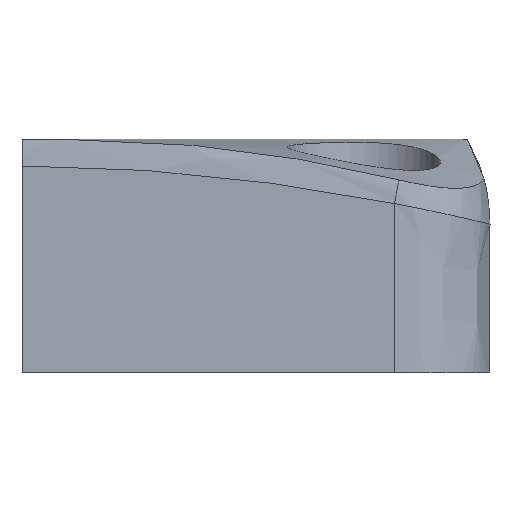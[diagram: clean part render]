
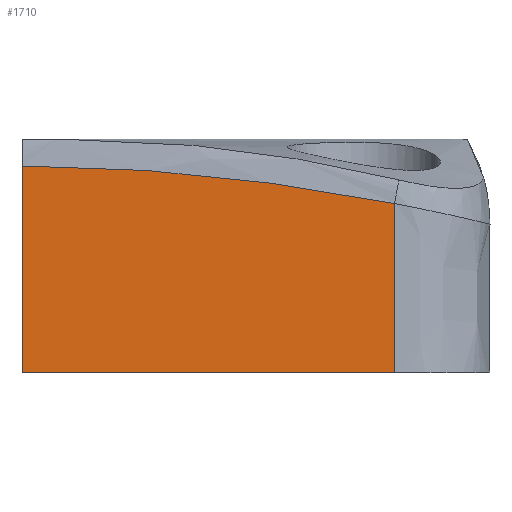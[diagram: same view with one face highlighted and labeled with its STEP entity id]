
A CAD part, left-side view. The second image highlights one B-rep face of the part: STEP entity #1710.
In plain terms, the highlighted planar face has unit normal (-1, 0, 0).
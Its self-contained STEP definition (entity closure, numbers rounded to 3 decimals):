
#1018=CARTESIAN_POINT('',(-18.,-15.317,5.));
#1019=VERTEX_POINT('',#1018);
#1029=CARTESIAN_POINT('',(-18.,-36.017,2.912));
#1030=VERTEX_POINT('',#1029);
#1031=CARTESIAN_POINT('',(-18.,-15.317,5.));
#1032=CARTESIAN_POINT('',(-18.,-22.265,4.999));
#1033=CARTESIAN_POINT('',(-18.,-29.2,4.229));
#1034=CARTESIAN_POINT('',(-18.,-36.017,2.912));
#1035=QUASI_UNIFORM_CURVE('',3,(#1031,#1032,#1033,#1034),.UNSPECIFIED.,.F.,.U.);
#1036=EDGE_CURVE('',#1019,#1030,#1035,.T.);
#1556=CARTESIAN_POINT('',(-18.0,-15.317,-6.5));
#1557=VERTEX_POINT('',#1556);
#1564=CARTESIAN_POINT('',(-18.0,-15.317,-6.5));
#1565=DIRECTION('',(0.0,0.0,1.0));
#1566=VECTOR('',#1565,11.5);
#1567=LINE('',#1564,#1566);
#1568=EDGE_CURVE('',#1557,#1019,#1567,.T.);
#1686=CARTESIAN_POINT('',(-18.0,-25.667,-0.75));
#1687=DIRECTION('',(-1.0,0.0,0.0));
#1688=DIRECTION('',(0.0,0.0,1.0));
#1689=AXIS2_PLACEMENT_3D('',#1686,#1687,#1688);
#1690=PLANE('',#1689);
#1691=ORIENTED_EDGE('',*,*,#1036,.F.);
#1692=ORIENTED_EDGE('',*,*,#1568,.F.);
#1693=CARTESIAN_POINT('',(-18.,-36.017,-6.5));
#1694=VERTEX_POINT('',#1693);
#1695=CARTESIAN_POINT('',(-18.0,-15.317,-6.5));
#1696=DIRECTION('',(0.0,-1.0,0.0));
#1697=VECTOR('',#1696,20.7);
#1698=LINE('',#1695,#1697);
#1699=EDGE_CURVE('',#1557,#1694,#1698,.T.);
#1700=ORIENTED_EDGE('',*,*,#1699,.T.);
#1701=CARTESIAN_POINT('',(-18.,-36.017,2.912));
#1702=CARTESIAN_POINT('',(-18.0,-36.017,-0.225));
#1703=CARTESIAN_POINT('',(-18.0,-36.017,-3.363));
#1704=CARTESIAN_POINT('',(-18.,-36.017,-6.5));
#1705=B_SPLINE_CURVE_WITH_KNOTS('',3,(#1701,#1702,#1703,#1704),.UNSPECIFIED.,.F.,.U.,(4,4),(0.0,1.),.UNSPECIFIED.);
#1706=EDGE_CURVE('',#1694,#1030,#1705,.F.);
#1707=ORIENTED_EDGE('',*,*,#1706,.T.);
#1708=EDGE_LOOP('',(#1691,#1692,#1700,#1707));
#1709=FACE_OUTER_BOUND('',#1708,.T.);
#1710=ADVANCED_FACE('',(#1709),#1690,.T.);
